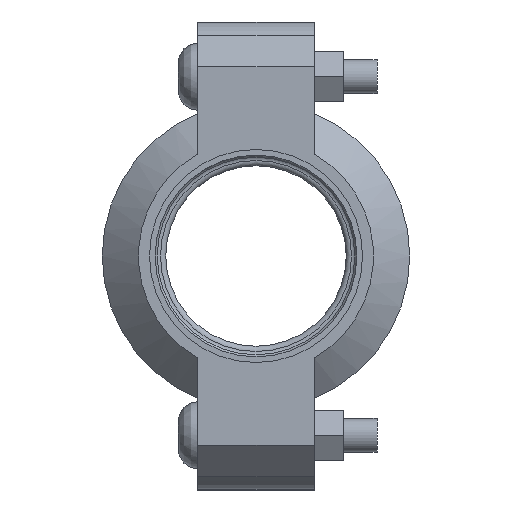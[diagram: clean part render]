
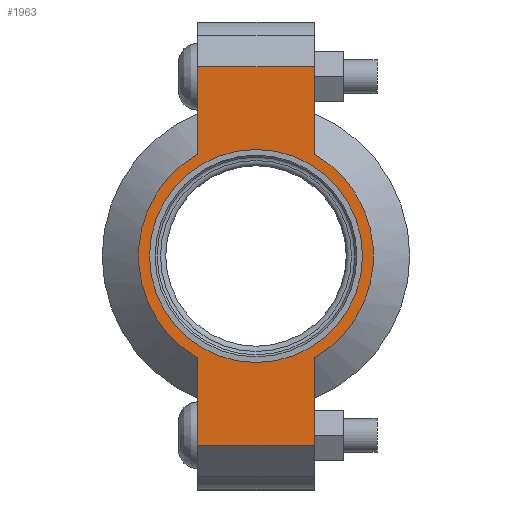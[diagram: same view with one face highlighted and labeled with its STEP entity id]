
A CAD part, left-side view. The second image highlights one B-rep face of the part: STEP entity #1963.
In plain terms, the highlighted planar face has unit normal (-1, 0, 0) as drawn and (0, 0, 1) by its records, which use the part's own axes.
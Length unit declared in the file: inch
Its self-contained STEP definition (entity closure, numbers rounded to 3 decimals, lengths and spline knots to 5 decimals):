
#152=LINE('',#3479,#249);
#160=LINE('',#3515,#257);
#167=LINE('',#3536,#264);
#176=LINE('',#3568,#273);
#177=LINE('',#3572,#274);
#178=LINE('',#3574,#275);
#249=VECTOR('',#2835,0.3937);
#257=VECTOR('',#2851,0.3937);
#264=VECTOR('',#2870,0.3937);
#273=VECTOR('',#2895,0.3937);
#274=VECTOR('',#2900,0.3937);
#275=VECTOR('',#2901,0.3937);
#331=FACE_BOUND('',#581,.T.);
#375=PLANE('',#2302);
#463=FACE_OUTER_BOUND('',#580,.T.);
#580=EDGE_LOOP('',(#1684,#1685,#1686,#1687,#1688,#1689,#1690,#1691));
#581=EDGE_LOOP('',(#1692));
#753=CIRCLE('',#2303,1.31);
#754=CIRCLE('',#2304,1.31);
#755=CIRCLE('',#2305,1.1875);
#917=VERTEX_POINT('',#3476);
#918=VERTEX_POINT('',#3478);
#929=VERTEX_POINT('',#3510);
#930=VERTEX_POINT('',#3514);
#937=VERTEX_POINT('',#3533);
#938=VERTEX_POINT('',#3535);
#948=VERTEX_POINT('',#3571);
#949=VERTEX_POINT('',#3573);
#950=VERTEX_POINT('',#3576);
#1162=EDGE_CURVE('',#918,#917,#152,.T.);
#1176=EDGE_CURVE('',#930,#929,#160,.T.);
#1186=EDGE_CURVE('',#938,#937,#167,.T.);
#1201=EDGE_CURVE('',#930,#917,#176,.T.);
#1202=EDGE_CURVE('',#929,#938,#753,.T.);
#1203=EDGE_CURVE('',#948,#937,#177,.T.);
#1204=EDGE_CURVE('',#948,#949,#178,.T.);
#1205=EDGE_CURVE('',#949,#918,#754,.T.);
#1206=EDGE_CURVE('',#950,#950,#755,.T.);
#1684=ORIENTED_EDGE('',*,*,#1201,.F.);
#1685=ORIENTED_EDGE('',*,*,#1176,.T.);
#1686=ORIENTED_EDGE('',*,*,#1202,.T.);
#1687=ORIENTED_EDGE('',*,*,#1186,.T.);
#1688=ORIENTED_EDGE('',*,*,#1203,.F.);
#1689=ORIENTED_EDGE('',*,*,#1204,.T.);
#1690=ORIENTED_EDGE('',*,*,#1205,.T.);
#1691=ORIENTED_EDGE('',*,*,#1162,.T.);
#1692=ORIENTED_EDGE('',*,*,#1206,.T.);
#1963=ADVANCED_FACE('',(#463,#331),#375,.T.);
#2302=AXIS2_PLACEMENT_3D('',#3569,#2896,#2897);
#2303=AXIS2_PLACEMENT_3D('',#3570,#2898,#2899);
#2304=AXIS2_PLACEMENT_3D('',#3575,#2902,#2903);
#2305=AXIS2_PLACEMENT_3D('',#3577,#2904,#2905);
#2835=DIRECTION('',(1.,0.,0.));
#2851=DIRECTION('',(-1.,0.,0.));
#2870=DIRECTION('',(-1.,0.,0.));
#2895=DIRECTION('',(0.,-1.,0.));
#2896=DIRECTION('center_axis',(0.,0.,1.));
#2897=DIRECTION('ref_axis',(-1.,0.,0.));
#2898=DIRECTION('center_axis',(0.,0.,1.));
#2899=DIRECTION('ref_axis',(1.,0.,0.));
#2900=DIRECTION('',(0.,1.,0.));
#2901=DIRECTION('',(1.,0.,0.));
#2902=DIRECTION('center_axis',(0.,0.,1.));
#2903=DIRECTION('ref_axis',(1.,0.,0.));
#2904=DIRECTION('center_axis',(0.,0.,-1.));
#2905=DIRECTION('ref_axis',(1.,0.,0.));
#3476=CARTESIAN_POINT('',(2.11,-0.65,0.94));
#3478=CARTESIAN_POINT('',(1.13737,-0.65,0.94));
#3479=CARTESIAN_POINT('',(2.61,-0.65,0.94));
#3510=CARTESIAN_POINT('',(1.13737,0.65,0.94));
#3514=CARTESIAN_POINT('',(2.11,0.65,0.94));
#3515=CARTESIAN_POINT('',(-2.61,0.65,0.94));
#3533=CARTESIAN_POINT('',(-2.11,0.65,0.94));
#3535=CARTESIAN_POINT('',(-1.13737,0.65,0.94));
#3536=CARTESIAN_POINT('',(-2.61,0.65,0.94));
#3568=CARTESIAN_POINT('',(2.11,-0.325,0.94));
#3569=CARTESIAN_POINT('Origin',(0.,0.,
0.94));
#3570=CARTESIAN_POINT('Origin',(0.,0.,0.94));
#3571=CARTESIAN_POINT('',(-2.11,-0.65,0.94));
#3572=CARTESIAN_POINT('',(-2.11,0.325,0.94));
#3573=CARTESIAN_POINT('',(-1.13737,-0.65,0.94));
#3574=CARTESIAN_POINT('',(2.61,-0.65,0.94));
#3575=CARTESIAN_POINT('Origin',(0.,0.,0.94));
#3576=CARTESIAN_POINT('',(-1.1875,0.,0.94));
#3577=CARTESIAN_POINT('Origin',(0.,0.,0.94));
